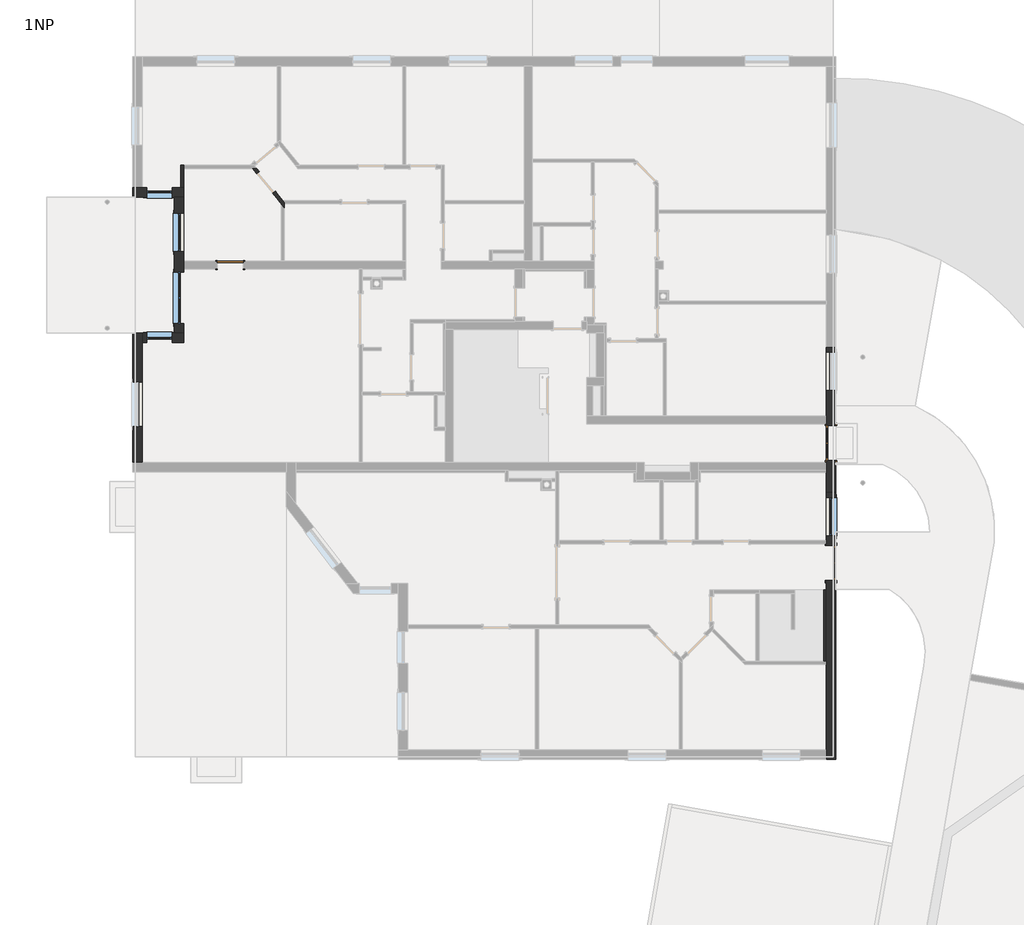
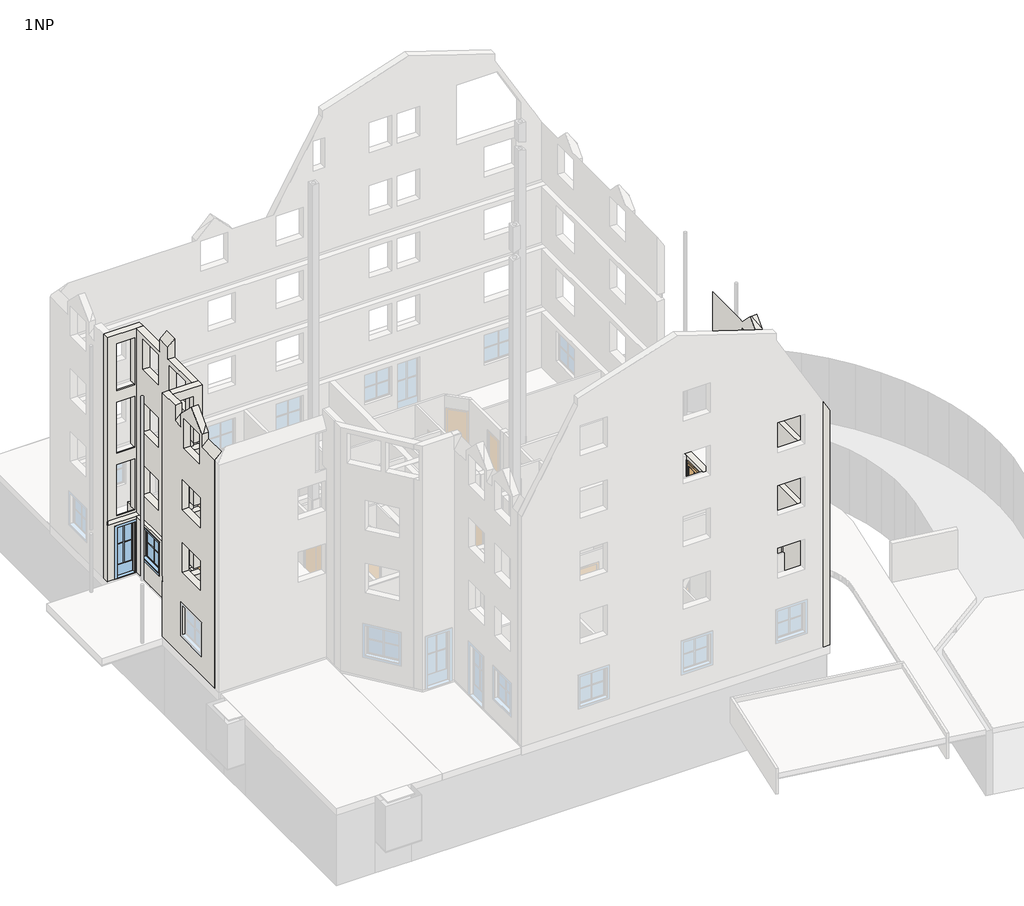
# One storey, part 3 of 7: 9 walls, 5 windows, 3 doors.
"""IFC4 building model written with IfcOpenShell, lengths in millimetres."""

from ifc_helpers import new_model, si_unit, origin, origin_with_axes, place, context, project, spatial, polyline, outline, extrude, faceted_brep, transform, mapped, element, save
from components import door_1100_x_2400mm_ddb7a374, door_1100_x_2400mm_4252e609, sd_800x2000_0203fe2f, standard_window_with_mullions_80486b60, window_1_87741a49, window_2_4fa60929

model = new_model("IFC4")

# Units and contexts
model_context = context("Model", 3, world=origin())
ifc_project = project(units=[si_unit("LENGTHUNIT", "METRE", prefix="MILLI")], contexts=[model_context])

# Site, building, storey
site = spatial("IfcSite", under=ifc_project)
building = spatial("IfcBuilding", under=site)
storey = spatial("IfcBuildingStorey", under=building, Name="1NP", Elevation=0.0)

# Doors
placement = place(None, origin())
door_1100_x_2400mm_shape = door_1100_x_2400mm_ddb7a374(model_context)
element("IfcDoor", 1, ObjectType="JednokridleOteviraveSkloVypln : 1100 x 2400mm", at=placement, inside=storey, context=model_context, shape_type="MappedRepresentation", body=[
    mapped(door_1100_x_2400mm_shape, transform((9212.8087835, -1232.3709459, 0.0), x_axis=(0.0, -1.0, 0.0), y_axis=(1.0, 0.0, 0.0), z_axis=(0.0, 0.0, 1.0))),
])
door_1100_x_2400mm_2_shape = door_1100_x_2400mm_4252e609(model_context)
element("IfcDoor", 2, ObjectType="JednokridleOteviraveSkloVypln : 1100 x 2400mm", at=placement, inside=storey, context=model_context, shape_type="MappedRepresentation", body=[
    mapped(door_1100_x_2400mm_2_shape, transform((9212.7987835, -4984.0530346, 0.0), x_axis=(0.0, -1.0, 0.0), y_axis=(1.0, 0.0, 0.0), z_axis=(0.0, 0.0, 1.0))),
])
sd_800x2000_shape = sd_800x2000_0203fe2f(model_context)
element("IfcDoor", 3, ObjectType="JednokridlePlne : SD 800x2000", at=placement, inside=storey, context=model_context, shape_type="MappedRepresentation", body=[
    mapped(sd_800x2000_shape, transform((-9588.4360939, 4342.6290541, 0.0), x_axis=(-1.0, 0.0, 0.0), y_axis=(0.0, -1.0, 0.0), z_axis=(0.0, 0.0, 1.0))),
])

# Walls
element("IfcWall", 4, ObjectType="Exterior - 250 + 50mm", at=placement, inside=storey, context=model_context, shape_type="Brep", body=[
    faceted_brep([(-11037.1962165, 4647.6290541, 11480.0), (-11037.1962165, 4647.6290541, 11800.0), (-11037.1962165, 4647.6290541, 12350.0), (-11037.1962165, 4447.6290541, 12350.0), (-11037.1962165, 4237.6290541, 12350.0), (-11037.1962165, 4037.6290541, 12350.0), (-11037.1962165, 4037.6290541, 11800.0), (-11037.1962165, 4037.6290541, 11480.0), (-11037.1962165, 2217.6290541, 11480.0), (-11037.1962165, 2217.6290541, 8850.0), (-11037.1962165, 4152.6290541, 8850.0), (-11037.1962165, 4217.6290541, 8850.0), (-11037.1962165, 4467.6290541, 8850.0), (-11037.1962165, 6467.6290541, 8850.0), (-11037.1962165, 6467.6290541, 11480.0), (-11037.1962165, 4767.6290548, 9850.0), (-11037.1962165, 4767.6290548, 11250.0), (-11037.1962165, 5967.6290548, 11250.0), (-11037.1962165, 5967.6290548, 9850.0), (-11037.1962165, 2717.6290548, 9850.0), (-11037.1962165, 2717.6290548, 11250.0), (-11037.1962165, 3917.6290548, 11250.0), (-11037.1962165, 3917.6290548, 9850.0), (-11037.1962165, 2517.6290559, 2950.0), (-11037.1962165, 2517.6290559, 5350.0), (-11037.1962165, 4117.6290559, 5350.0), (-11037.1962165, 4117.6290559, 2950.0), (-11037.1962165, 4152.6290541, 2950.0), (-11037.1962165, 4217.6290541, 2950.0), (-11037.1962165, 4467.6290541, 2950.0), (-11037.1962165, 6367.6290541, 2950.0), (-11037.1962165, 6467.6290541, 2950.0), (-11037.1962165, 6467.6290541, 5580.0), (-11037.1962165, 6367.6290541, 5580.0), (-11037.1962165, 4467.6290541, 5580.0), (-11037.1962165, 4217.6290541, 5580.0), (-11037.1962165, 4152.6290541, 5580.0), (-11037.1962165, 2217.6290541, 5580.0), (-11037.1962165, 2217.6290541, 2950.0), (-11037.1962165, 4767.6290548, 3950.0), (-11037.1962165, 4767.6290548, 5350.0), (-11037.1962165, 5967.6290548, 5350.0), (-11037.1962165, 5967.6290548, 3950.0), (-11037.1962165, 2517.6290559, 5900.0), (-11037.1962165, 2517.6290559, 8300.0), (-11037.1962165, 4117.6290559, 8300.0), (-11037.1962165, 4117.6290559, 5900.0), (-11037.1962165, 4152.6290541, 5900.0), (-11037.1962165, 4217.6290541, 5900.0), (-11037.1962165, 4467.6290541, 5900.0), (-11037.1962165, 6467.6290541, 5900.0), (-11037.1962165, 6467.6290541, 8530.0), (-11037.1962165, 4467.6290541, 8530.0), (-11037.1962165, 4217.6290541, 8530.0), (-11037.1962165, 4152.6290541, 8530.0), (-11037.1962165, 2217.6290541, 8530.0), (-11037.1962165, 2217.6290541, 5900.0), (-11037.1962165, 4767.6290548, 6900.0), (-11037.1962165, 4767.6290548, 8300.0), (-11037.1962165, 5967.6290548, 8300.0), (-11037.1962165, 5967.6290548, 6900.0), (-11337.1962165, 4647.6290541, 12050.0), (-11337.1962165, 4647.6290541, 11480.0), (-11337.1962165, 6467.6290541, 11480.0), (-11337.1962165, 6467.6290541, 2850.0), (-11337.1962165, 4392.6290541, 2850.0), (-11337.1962165, 4292.6290541, 2850.0), (-11337.1962165, 2217.6290541, 2850.0), (-11337.1962165, 2217.6290541, 11480.0), (-11337.1962165, 4037.6290541, 11480.0), (-11337.1962165, 4037.6290541, 12050.0), (-11337.1962165, 2517.6290559, 5350.0), (-11337.1962165, 2517.6290559, 2950.0), (-11337.1962165, 4117.6290559, 2950.0), (-11337.1962165, 4117.6290559, 5350.0), (-11337.1962165, 4767.6290548, 5350.0), (-11337.1962165, 4767.6290548, 3950.0), (-11337.1962165, 5967.6290548, 3950.0), (-11337.1962165, 5967.6290548, 5350.0), (-11337.1962165, 2517.6290559, 8300.0), (-11337.1962165, 2517.6290559, 5900.0), (-11337.1962165, 4117.6290559, 5900.0), (-11337.1962165, 4117.6290559, 8300.0), (-11337.1962165, 4767.6290548, 8300.0), (-11337.1962165, 4767.6290548, 6900.0), (-11337.1962165, 5967.6290548, 6900.0), (-11337.1962165, 5967.6290548, 8300.0), (-11337.1962165, 4767.6290548, 11250.0), (-11337.1962165, 4767.6290548, 9850.0), (-11337.1962165, 5967.6290548, 9850.0), (-11337.1962165, 5967.6290548, 11250.0), (-11337.1962165, 2717.6290548, 11250.0), (-11337.1962165, 2717.6290548, 9850.0), (-11337.1962165, 3917.6290548, 9850.0), (-11337.1962165, 3917.6290548, 11250.0), (-11287.1962165, 2217.6290541, 2850.0), (-11287.1962165, 2217.6290541, 2950.0), (-11287.1962165, 2217.6290541, 5580.0), (-11287.1962165, 2217.6290541, 5900.0), (-11287.1962165, 2217.6290541, 8530.0), (-11287.1962165, 2217.6290541, 8850.0), (-11287.1962165, 6467.6290541, 8850.0), (-11287.1962165, 6467.6290541, 8530.0), (-11287.1962165, 6467.6290541, 5900.0), (-11287.1962165, 6467.6290541, 5580.0), (-11287.1962165, 6467.6290541, 2950.0), (-11287.1962165, 6467.6290541, 2850.0), (-11287.1962165, 2517.6290559, 2950.0), (-11287.1962165, 4117.6290559, 2950.0), (-11287.1962165, 2517.6290559, 5900.0), (-11287.1962165, 4117.6290559, 5900.0)], [[[0, 1, 2, 3, 4, 5, 6, 7, 8, 9, 10, 11, 12, 13, 14], [15, 16, 17, 18], [19, 20, 21, 22]], [[23, 24, 25, 26, 27, 28, 29, 30, 31, 32, 33, 34, 35, 36, 37, 38], [39, 40, 41, 42]], [[43, 44, 45, 46, 47, 48, 49, 50, 51, 52, 53, 54, 55, 56], [57, 58, 59, 60]], [[61, 62, 63, 64, 65, 66, 67, 68, 69, 70], [71, 72, 73, 74], [75, 76, 77, 78], [79, 80, 81, 82], [83, 84, 85, 86], [87, 88, 89, 90], [91, 92, 93, 94]], [[8, 68, 67, 95, 96, 38, 37, 97, 98, 56, 55, 99, 100, 9]], [[63, 14, 13, 101, 102, 51, 50, 103, 104, 32, 31, 105, 106, 64]], [[2, 1, 0, 62, 61]], [[70, 69, 7, 6, 5]], [[5, 4, 3, 2, 61, 70]], [[0, 14, 63, 62]], [[8, 7, 69, 68]], [[24, 23, 107, 72, 71]], [[25, 24, 71, 74]], [[26, 25, 74, 73, 108]], [[73, 72, 107, 108]], [[40, 39, 76, 75]], [[41, 40, 75, 78]], [[42, 41, 78, 77]], [[39, 42, 77, 76]], [[44, 43, 109, 80, 79]], [[45, 44, 79, 82]], [[46, 45, 82, 81, 110]], [[81, 80, 109, 110]], [[58, 57, 84, 83]], [[59, 58, 83, 86]], [[60, 59, 86, 85]], [[57, 60, 85, 84]], [[16, 15, 88, 87]], [[17, 16, 87, 90]], [[18, 17, 90, 89]], [[15, 18, 89, 88]], [[20, 19, 92, 91]], [[21, 20, 91, 94]], [[22, 21, 94, 93]], [[19, 22, 93, 92]], [[96, 107, 23, 38]], [[108, 105, 31, 30, 29, 28, 27, 26]], [[107, 96, 95, 106, 105, 108]], [[67, 66, 65, 64, 106, 95]], [[104, 97, 37, 36, 35, 34, 33, 32]], [[98, 109, 43, 56]], [[110, 103, 50, 49, 48, 47, 46]], [[97, 104, 103, 110, 109, 98]], [[102, 99, 55, 54, 53, 52, 51]], [[100, 101, 13, 12, 11, 10, 9]], [[99, 102, 101, 100]]]),
    faceted_brep([(-11037.1962165, 2517.6290559, 0.0), (-11037.1962165, 2517.6290559, 2400.0), (-11037.1962165, 4117.6290559, 2400.0), (-11037.1962165, 4117.6290559, 0.0), (-11037.1962165, 4217.6290541, 0.0), (-11037.1962165, 4467.6290541, 0.0), (-11037.1962165, 6467.6290541, 0.0), (-11037.1962165, 6467.6290541, 2630.0), (-11037.1962165, 4467.6290541, 2630.0), (-11037.1962165, 4217.6290541, 2630.0), (-11037.1962165, 2217.6290541, 2630.0), (-11037.1962165, 2217.6290541, 0.0), (-11037.1962165, 4767.6290548, 1000.0), (-11037.1962165, 4767.6290548, 2400.0), (-11037.1962165, 5967.6290548, 2400.0), (-11037.1962165, 5967.6290548, 1000.0), (-11337.1962165, 2517.6290559, 2400.0), (-11337.1962165, 2517.6290559, 0.0), (-11337.1962165, 2217.6290541, 0.0), (-11337.1962165, 2217.6290541, 2630.0), (-11337.1962165, 6467.6290541, 2630.0), (-11337.1962165, 6467.6290541, 0.0), (-11337.1962165, 4117.6290559, 0.0), (-11337.1962165, 4117.6290559, 2400.0), (-11337.1962165, 4767.6290548, 2400.0), (-11337.1962165, 4767.6290548, 1000.0), (-11337.1962165, 5967.6290548, 1000.0), (-11337.1962165, 5967.6290548, 2400.0)], [[[0, 1, 2, 3, 4, 5, 6, 7, 8, 9, 10, 11], [12, 13, 14, 15]], [[16, 17, 18, 19, 20, 21, 22, 23], [24, 25, 26, 27]], [[11, 18, 17, 0]], [[21, 6, 5, 4, 3, 22]], [[18, 11, 10, 19]], [[6, 21, 20, 7]], [[1, 0, 17, 16]], [[2, 1, 16, 23]], [[3, 2, 23, 22]], [[13, 12, 25, 24]], [[14, 13, 24, 27]], [[15, 14, 27, 26]], [[12, 15, 26, 25]], [[10, 9, 8, 7, 20, 19]]]),
])
element("IfcWall", 5, ObjectType="Exterior - 250+50mm", at=placement, inside=storey, context=model_context, shape_type="Brep", body=[
    faceted_brep([(-12637.1962165, 6767.6290541, 0.0), (-12637.1962165, 6767.6290541, 11480.0), (-12337.1962165, 6767.6290541, 11480.0), (-11037.1962165, 6767.6290541, 11480.0), (-11037.1962165, 6767.6290541, 8850.0), (-11407.370388, 6767.6290541, 8850.0), (-11407.370388, 6767.6290541, 11050.0), (-12207.370388, 6767.6290541, 11050.0), (-12207.370388, 6767.6290541, 8850.0), (-12337.1962165, 6767.6290541, 8850.0), (-12587.1962165, 6767.6290541, 8850.0), (-12587.1962165, 6767.6290541, 8530.0), (-12337.1962165, 6767.6290541, 8530.0), (-11137.1962165, 6767.6290541, 8530.0), (-11037.1962165, 6767.6290541, 8530.0), (-11037.1962165, 6767.6290541, 5900.0), (-11137.1962165, 6767.6290541, 5900.0), (-11407.370388, 6767.6290541, 5900.0), (-11407.370388, 6767.6290541, 8300.0), (-12207.370388, 6767.6290541, 8300.0), (-12207.370388, 6767.6290541, 5900.0), (-12337.1962165, 6767.6290541, 5900.0), (-12587.1962165, 6767.6290541, 5900.0), (-12587.1962165, 6767.6290541, 5580.0), (-12337.1962165, 6767.6290541, 5580.0), (-11037.1962165, 6767.6290541, 5580.0), (-11037.1962165, 6767.6290541, 2950.0), (-11407.370388, 6767.6290541, 2950.0), (-11407.370388, 6767.6290541, 5350.0), (-12207.370388, 6767.6290541, 5350.0), (-12207.370388, 6767.6290541, 2950.0), (-12337.1962165, 6767.6290541, 2950.0), (-12587.1962165, 6767.6290541, 2950.0), (-12587.1962165, 6767.6290541, 2630.0), (-12337.1962165, 6767.6290541, 2630.0), (-11137.1962165, 6767.6290541, 2630.0), (-11037.1962165, 6767.6290541, 2630.0), (-11037.1962165, 6767.6290541, 0.0), (-11137.1962165, 6767.6290541, 0.0), (-11407.370388, 6767.6290541, 0.0), (-11407.370388, 6767.6290541, 2400.0), (-12207.370388, 6767.6290541, 2400.0), (-12207.370388, 6767.6290541, 0.0), (-12337.1962165, 6767.6290541, 0.0), (-11037.1962165, 6467.6290541, 11480.0), (-11337.1962165, 6467.6290541, 11480.0), (-12637.1962165, 6467.6290541, 11480.0), (-12637.1962165, 6467.6290541, 2850.0), (-11337.1962165, 6467.6290541, 2850.0), (-11287.1962165, 6467.6290541, 2850.0), (-11287.1962165, 6467.6290541, 2950.0), (-11037.1962165, 6467.6290541, 2950.0), (-11037.1962165, 6467.6290541, 5580.0), (-11287.1962165, 6467.6290541, 5580.0), (-11287.1962165, 6467.6290541, 5900.0), (-11037.1962165, 6467.6290541, 5900.0), (-11037.1962165, 6467.6290541, 8530.0), (-11287.1962165, 6467.6290541, 8530.0), (-11287.1962165, 6467.6290541, 8850.0), (-11037.1962165, 6467.6290541, 8850.0), (-12207.370388, 6467.6290541, 2950.0), (-12207.370388, 6467.6290541, 5350.0), (-11407.370388, 6467.6290541, 5350.0), (-11407.370388, 6467.6290541, 2950.0), (-12207.370388, 6467.6290541, 5900.0), (-12207.370388, 6467.6290541, 8300.0), (-11407.370388, 6467.6290541, 8300.0), (-11407.370388, 6467.6290541, 5900.0), (-12207.370388, 6467.6290541, 8850.0), (-12207.370388, 6467.6290541, 11050.0), (-11407.370388, 6467.6290541, 11050.0), (-11407.370388, 6467.6290541, 8850.0), (-11407.370388, 6467.6290541, 2400.0), (-11407.370388, 6467.6290541, 0.0), (-11337.1962165, 6467.6290541, 0.0), (-11037.1962165, 6467.6290541, 0.0), (-11037.1962165, 6467.6290541, 2630.0), (-11337.1962165, 6467.6290541, 2630.0), (-12637.1962165, 6467.6290541, 2630.0), (-12637.1962165, 6467.6290541, 0.0), (-12207.370388, 6467.6290541, 0.0), (-12207.370388, 6467.6290541, 2400.0), (-12637.1962165, 6517.6290541, 2630.0), (-12637.1962165, 6517.6290541, 2850.0), (-12207.370388, 6517.6290541, 2950.0), (-11407.370388, 6517.6290541, 2950.0), (-12207.370388, 6517.6290541, 5900.0), (-11407.370388, 6517.6290541, 5900.0), (-12207.370388, 6517.6290541, 8850.0), (-11407.370388, 6517.6290541, 8850.0), (-12587.1962165, 6517.6290541, 2630.0), (-12587.1962165, 6517.6290541, 2950.0), (-11287.1962165, 6517.6290541, 2950.0), (-11287.1962165, 6517.6290541, 2850.0), (-12587.1962165, 6517.6290541, 2850.0), (-12587.1962165, 6517.6290541, 5580.0), (-11287.1962165, 6517.6290541, 5580.0), (-12587.1962165, 6517.6290541, 5900.0), (-11287.1962165, 6517.6290541, 5900.0), (-12587.1962165, 6517.6290541, 8530.0), (-11287.1962165, 6517.6290541, 8530.0), (-12587.1962165, 6517.6290541, 8850.0), (-11287.1962165, 6517.6290541, 8850.0)], [[[0, 1, 2, 3, 4, 5, 6, 7, 8, 9, 10, 11, 12, 13, 14, 15, 16, 17, 18, 19, 20, 21, 22, 23, 24, 25, 26, 27, 28, 29, 30, 31, 32, 33, 34, 35, 36, 37, 38, 39, 40, 41, 42, 43]], [[44, 45, 46, 47, 48, 49, 50, 51, 52, 53, 54, 55, 56, 57, 58, 59], [60, 61, 62, 63], [64, 65, 66, 67], [68, 69, 70, 71]], [[72, 73, 74, 75, 76, 77, 78, 79, 80, 81]], [[79, 0, 43, 42, 80]], [[37, 75, 74, 73, 39, 38]], [[1, 0, 79, 78, 82, 83, 47, 46]], [[75, 37, 36, 76]], [[3, 44, 59, 4]], [[51, 26, 25, 52]], [[55, 15, 14, 56]], [[3, 2, 1, 46, 45, 44]], [[40, 39, 73, 72]], [[41, 40, 72, 81]], [[42, 41, 81, 80]], [[61, 60, 84, 30, 29]], [[62, 61, 29, 28]], [[63, 62, 28, 27, 85]], [[60, 63, 85, 84]], [[65, 64, 86, 20, 19]], [[66, 65, 19, 18]], [[67, 66, 18, 17, 87]], [[64, 67, 87, 86]], [[69, 68, 88, 8, 7]], [[70, 69, 7, 6]], [[71, 70, 6, 5, 89]], [[68, 71, 89, 88]], [[33, 90, 82, 78, 77, 76, 36, 35, 34]], [[84, 91, 32, 31, 30]], [[92, 85, 27, 26, 51, 50]], [[92, 50, 49, 93]], [[91, 84, 85, 92, 93, 94]], [[90, 33, 32, 91, 94]], [[83, 94, 93, 49, 48, 47]], [[82, 90, 94, 83]], [[95, 96, 53, 52, 25, 24, 23]], [[86, 97, 22, 21, 20]], [[98, 87, 17, 16, 15, 55, 54]], [[96, 98, 54, 53]], [[96, 95, 97, 86, 87, 98]], [[97, 95, 23, 22]], [[99, 100, 57, 56, 14, 13, 12, 11]], [[88, 101, 10, 9, 8]], [[102, 89, 5, 4, 59, 58]], [[100, 102, 58, 57]], [[100, 99, 101, 88, 89, 102]], [[101, 99, 11, 10]]]),
])
element("IfcWall", 6, ObjectType="Exterior - 250+50mm", at=placement, inside=storey, context=model_context, shape_type="Brep", body=[
    faceted_brep([(-12337.1962165, -1832.3709459, 0.0), (-12337.1962165, 1917.6290541, 0.0), (-12337.1962165, 2217.6290541, 0.0), (-12337.1962165, 2217.6290541, 2630.0), (-12337.1962165, 1917.6290541, 2630.0), (-12337.1962165, -1832.3709459, 2630.0), (-12337.1962165, -720.1346317, 1000.0), (-12337.1962165, -720.1346317, 2400.0), (-12337.1962165, 679.8653683, 2400.0), (-12337.1962165, 679.8653683, 1000.0), (-12337.1962165, -820.1346317, 11350.0), (-12337.1962165, -820.1346317, 11050.0), (-12337.1962165, -1832.3709459, 11050.0), (-12337.1962165, -1832.3709459, 8850.0), (-12337.1962165, 1917.6290541, 8850.0), (-12337.1962165, 2167.6290541, 8850.0), (-12337.1962165, 2167.6290541, 8530.0), (-12337.1962165, 1917.6290541, 8530.0), (-12337.1962165, -1832.3709459, 8530.0), (-12337.1962165, -1832.3709459, 5900.0), (-12337.1962165, 1917.6290541, 5900.0), (-12337.1962165, 2167.6290541, 5900.0), (-12337.1962165, 2167.6290541, 5580.0), (-12337.1962165, 1917.6290541, 5580.0), (-12337.1962165, -1832.3709459, 5580.0), (-12337.1962165, -1832.3709459, 2950.0), (-12337.1962165, 1917.6290541, 2950.0), (-12337.1962165, 2167.6290541, 2950.0), (-12337.1962165, 2167.6290541, 2850.0), (-12337.1962165, 2217.6290541, 2850.0), (-12337.1962165, 2217.6290541, 11480.0), (-12337.1962165, 1917.6290541, 11480.0), (-12337.1962165, 1237.6290541, 11480.0), (-12337.1962165, 1237.6290541, 11050.0), (-12337.1962165, 779.8653683, 11050.0), (-12337.1962165, 779.8653683, 11350.0), (-12337.1962165, 570.7484858, 11559.1168825), (-12337.1962165, -20.1346317, 12150.0), (-12337.1962165, -611.0177493, 11559.1168825), (-12337.1962165, -720.1346317, 3950.0), (-12337.1962165, -720.1346317, 5350.0), (-12337.1962165, 679.8653683, 5350.0), (-12337.1962165, 679.8653683, 3950.0), (-12337.1962165, -720.1346317, 6900.0), (-12337.1962165, -720.1346317, 8300.0), (-12337.1962165, 679.8653683, 8300.0), (-12337.1962165, 679.8653683, 6900.0), (-12337.1962165, -620.1346317, 9850.0), (-12337.1962165, -620.1346317, 11250.0), (-12337.1962165, 579.8653683, 11250.0), (-12337.1962165, 579.8653683, 9850.0), (-12637.1962165, 2217.6290541, 0.0), (-12637.1962165, -1832.3709459, 0.0), (-12637.1962165, -1832.3709459, 10750.0), (-12637.1962165, -820.1346317, 10750.0), (-12637.1962165, -820.1346317, 11350.0), (-12637.1962165, -20.1346317, 12150.0), (-12637.1962165, 779.8653683, 11350.0), (-12637.1962165, 779.8653683, 10750.0), (-12637.1962165, 1237.6290541, 10750.0), (-12637.1962165, 1237.6290541, 11480.0), (-12637.1962165, 2217.6290541, 11480.0), (-12637.1962165, 2217.6290541, 2850.0), (-12637.1962165, 2167.6290541, 2850.0), (-12637.1962165, 2167.6290541, 2630.0), (-12637.1962165, 2217.6290541, 2630.0), (-12637.1962165, -720.1346317, 2400.0), (-12637.1962165, -720.1346317, 1000.0), (-12637.1962165, 679.8653683, 1000.0), (-12637.1962165, 679.8653683, 2400.0), (-12637.1962165, -720.1346317, 5350.0), (-12637.1962165, -720.1346317, 3950.0), (-12637.1962165, 679.8653683, 3950.0), (-12637.1962165, 679.8653683, 5350.0), (-12637.1962165, -720.1346317, 8300.0), (-12637.1962165, -720.1346317, 6900.0), (-12637.1962165, 679.8653683, 6900.0), (-12637.1962165, 679.8653683, 8300.0), (-12637.1962165, -620.1346317, 11250.0), (-12637.1962165, -620.1346317, 9850.0), (-12637.1962165, 579.8653683, 9850.0), (-12637.1962165, 579.8653683, 11250.0), (-12587.1962165, -1832.3709459, 2630.0), (-12587.1962165, -1832.3709459, 2950.0), (-12587.1962165, -1832.3709459, 5580.0), (-12587.1962165, -1832.3709459, 5900.0), (-12587.1962165, -1832.3709459, 8530.0), (-12587.1962165, -1832.3709459, 8850.0), (-12546.313099, -820.1346317, 11350.0), (-12546.313099, 779.8653683, 11350.0), (-12587.1962165, 2167.6290541, 2630.0), (-12587.1962165, 2167.6290541, 2950.0), (-12587.1962165, 2167.6290541, 2850.0), (-12587.1962165, 2167.6290541, 5580.0), (-12587.1962165, 2167.6290541, 5900.0), (-12587.1962165, 2167.6290541, 8530.0), (-12587.1962165, 2167.6290541, 8850.0)], [[[0, 1, 2, 3, 4, 5], [6, 7, 8, 9]], [[10, 11, 12, 13, 14, 15, 16, 17, 18, 19, 20, 21, 22, 23, 24, 25, 26, 27, 28, 29, 30, 31, 32, 33, 34, 35, 36, 37, 38], [39, 40, 41, 42], [43, 44, 45, 46], [47, 48, 49, 50]], [[51, 52, 53, 54, 55, 56, 57, 58, 59, 60, 61, 62, 63, 64, 65], [66, 67, 68, 69], [70, 71, 72, 73], [74, 75, 76, 77], [78, 79, 80, 81]], [[2, 1, 0, 52, 51]], [[2, 51, 65, 3]], [[61, 30, 29, 62]], [[53, 52, 0, 5, 82, 83, 25, 24, 84, 85, 19, 18, 86, 87, 13, 12]], [[55, 54, 11, 10, 88]], [[35, 34, 58, 57, 89]], [[33, 32, 60, 59]], [[36, 35, 89]], [[34, 33, 59, 58]], [[10, 38, 88]], [[53, 12, 11, 54]], [[55, 88, 38, 37, 56]], [[89, 57, 56, 37, 36]], [[32, 31, 30, 61, 60]], [[7, 6, 67, 66]], [[8, 7, 66, 69]], [[9, 8, 69, 68]], [[6, 9, 68, 67]], [[40, 39, 71, 70]], [[41, 40, 70, 73]], [[42, 41, 73, 72]], [[39, 42, 72, 71]], [[44, 43, 75, 74]], [[45, 44, 74, 77]], [[46, 45, 77, 76]], [[43, 46, 76, 75]], [[48, 47, 79, 78]], [[49, 48, 78, 81]], [[50, 49, 81, 80]], [[47, 50, 80, 79]], [[90, 82, 5, 4, 3, 65, 64]], [[83, 91, 27, 26, 25]], [[82, 90, 92, 91, 83]], [[27, 91, 92, 28]], [[92, 63, 62, 29, 28]], [[90, 64, 63, 92]], [[22, 93, 84, 24, 23]], [[85, 94, 21, 20, 19]], [[93, 94, 85, 84]], [[94, 93, 22, 21]], [[16, 95, 86, 18, 17]], [[87, 96, 15, 14, 13]], [[95, 96, 87, 86]], [[96, 95, 16, 15]]]),
])
element("IfcWall", 7, ObjectType="Exterior - 250+50mm", at=placement, inside=storey, context=model_context, shape_type="Brep", body=[
    faceted_brep([(-11037.1962165, 1917.6290541, 11480.0), (-12337.1962165, 1917.6290541, 11480.0), (-12337.1962165, 1917.6290541, 8850.0), (-12207.3703663, 1917.6290541, 8850.0), (-12207.3703663, 1917.6290541, 11050.0), (-11407.3703663, 1917.6290541, 11050.0), (-11407.3703663, 1917.6290541, 8850.0), (-11037.1962165, 1917.6290541, 8850.0), (-12207.3703663, 1917.6290541, 2950.0), (-12207.3703663, 1917.6290541, 5350.0), (-11407.3703663, 1917.6290541, 5350.0), (-11407.3703663, 1917.6290541, 2950.0), (-11037.1962165, 1917.6290541, 2950.0), (-11037.1962165, 1917.6290541, 5580.0), (-12337.1962165, 1917.6290541, 5580.0), (-12337.1962165, 1917.6290541, 2950.0), (-12207.3703663, 1917.6290541, 5900.0), (-12207.3703663, 1917.6290541, 8300.0), (-11407.3703663, 1917.6290541, 8300.0), (-11407.3703663, 1917.6290541, 5900.0), (-11037.1962165, 1917.6290541, 5900.0), (-11037.1962165, 1917.6290541, 8530.0), (-12337.1962165, 1917.6290541, 8530.0), (-12337.1962165, 1917.6290541, 5900.0), (-12337.1962165, 2217.6290541, 11480.0), (-11337.1962165, 2217.6290541, 11480.0), (-11037.1962165, 2217.6290541, 11480.0), (-11037.1962165, 2217.6290541, 8850.0), (-11287.1962165, 2217.6290541, 8850.0), (-11287.1962165, 2217.6290541, 8530.0), (-11037.1962165, 2217.6290541, 8530.0), (-11037.1962165, 2217.6290541, 5900.0), (-11287.1962165, 2217.6290541, 5900.0), (-11287.1962165, 2217.6290541, 5580.0), (-11037.1962165, 2217.6290541, 5580.0), (-11037.1962165, 2217.6290541, 2950.0), (-11287.1962165, 2217.6290541, 2950.0), (-11287.1962165, 2217.6290541, 2850.0), (-11337.1962165, 2217.6290541, 2850.0), (-12337.1962165, 2217.6290541, 2850.0), (-12207.3703663, 2217.6290541, 5350.0), (-12207.3703663, 2217.6290541, 2950.0), (-11407.3703663, 2217.6290541, 2950.0), (-11407.3703663, 2217.6290541, 5350.0), (-12207.3703663, 2217.6290541, 8300.0), (-12207.3703663, 2217.6290541, 5900.0), (-11407.3703663, 2217.6290541, 5900.0), (-11407.3703663, 2217.6290541, 8300.0), (-12207.3703663, 2217.6290541, 11050.0), (-12207.3703663, 2217.6290541, 8850.0), (-11407.3703663, 2217.6290541, 8850.0), (-11407.3703663, 2217.6290541, 11050.0), (-12337.1962165, 2167.6290541, 2850.0), (-12337.1962165, 2167.6290541, 2950.0), (-12337.1962165, 2167.6290541, 5580.0), (-12337.1962165, 2167.6290541, 5900.0), (-12337.1962165, 2167.6290541, 8530.0), (-12337.1962165, 2167.6290541, 8850.0), (-12207.3703663, 2167.6290541, 2950.0), (-11407.3703663, 2167.6290541, 2950.0), (-12207.3703663, 2167.6290541, 5900.0), (-11407.3703663, 2167.6290541, 5900.0), (-12207.3703663, 2167.6290541, 8850.0), (-11407.3703663, 2167.6290541, 8850.0), (-11287.1962165, 2167.6290541, 2950.0), (-11287.1962165, 2167.6290541, 2850.0), (-11287.1962165, 2167.6290541, 5580.0), (-11287.1962165, 2167.6290541, 5900.0), (-11287.1962165, 2167.6290541, 8530.0), (-11287.1962165, 2167.6290541, 8850.0)], [[[0, 1, 2, 3, 4, 5, 6, 7]], [[8, 9, 10, 11, 12, 13, 14, 15]], [[16, 17, 18, 19, 20, 21, 22, 23]], [[24, 25, 26, 27, 28, 29, 30, 31, 32, 33, 34, 35, 36, 37, 38, 39], [40, 41, 42, 43], [44, 45, 46, 47], [48, 49, 50, 51]], [[26, 0, 7, 27]], [[12, 35, 34, 13]], [[20, 31, 30, 21]], [[1, 24, 39, 52, 53, 15, 14, 54, 55, 23, 22, 56, 57, 2]], [[1, 0, 26, 25, 24]], [[9, 8, 58, 41, 40]], [[10, 9, 40, 43]], [[11, 10, 43, 42, 59]], [[42, 41, 58, 59]], [[17, 16, 60, 45, 44]], [[18, 17, 44, 47]], [[19, 18, 47, 46, 61]], [[46, 45, 60, 61]], [[48, 4, 3, 62, 49]], [[4, 48, 51, 5]], [[5, 51, 50, 63, 6]], [[50, 49, 62, 63]], [[59, 64, 36, 35, 12, 11]], [[53, 58, 8, 15]], [[64, 59, 58, 53, 52, 65]], [[36, 64, 65, 37]], [[39, 38, 37, 65, 52]], [[33, 66, 54, 14, 13, 34]], [[61, 67, 32, 31, 20, 19]], [[55, 60, 16, 23]], [[66, 67, 61, 60, 55, 54]], [[67, 66, 33, 32]], [[29, 68, 56, 22, 21, 30]], [[63, 69, 28, 27, 7, 6]], [[57, 62, 3, 2]], [[68, 69, 63, 62, 57, 56]], [[69, 68, 29, 28]]]),
    faceted_brep([(-12207.3703663, 1917.6290541, 0.0), (-12207.3703663, 1917.6290541, 2400.0), (-11407.3703663, 1917.6290541, 2400.0), (-11407.3703663, 1917.6290541, 0.0), (-11037.1962165, 1917.6290541, 0.0), (-11037.1962165, 1917.6290541, 2630.0), (-12337.1962165, 1917.6290541, 2630.0), (-12337.1962165, 1917.6290541, 0.0), (-12207.3703663, 2217.6290541, 2400.0), (-12207.3703663, 2217.6290541, 0.0), (-12337.1962165, 2217.6290541, 0.0), (-12337.1962165, 2217.6290541, 2630.0), (-11337.1962165, 2217.6290541, 2630.0), (-11037.1962165, 2217.6290541, 2630.0), (-11037.1962165, 2217.6290541, 0.0), (-11337.1962165, 2217.6290541, 0.0), (-11407.3703663, 2217.6290541, 0.0), (-11407.3703663, 2217.6290541, 2400.0)], [[[0, 1, 2, 3, 4, 5, 6, 7]], [[8, 9, 10, 11, 12, 13, 14, 15, 16, 17]], [[14, 4, 3, 16, 15]], [[7, 10, 9, 0]], [[4, 14, 13, 5]], [[10, 7, 6, 11]], [[1, 0, 9, 8]], [[2, 1, 8, 17]], [[3, 2, 17, 16]], [[6, 5, 13, 12, 11]]]),
])
element("IfcWall", 8, ObjectType="Exterior - 250+50mm", at=placement, inside=storey, context=model_context, shape_type="Brep", body=[
    faceted_brep([(9062.8037835, -1782.2469294, 2400.0), (9062.8037835, -1782.2469294, 0.0), (9062.8037835, -1832.3709459, 0.0), (9062.8037835, -2082.3709459, 0.0), (9062.8037835, -2147.3709459, 0.0), (9062.8037835, -2782.3709459, 0.0), (9062.8037835, -2782.3709459, 2630.0), (9062.8037835, -2682.3709459, 2630.0), (9062.8037835, -2147.3709459, 2630.0), (9062.8037835, -2082.3709459, 2630.0), (9062.8037835, -1832.3709459, 2630.0), (9062.8037835, -632.3709459, 2630.0), (9062.8037835, -382.3709459, 2630.0), (9062.8037835, 1667.6290541, 2630.0), (9062.8037835, 1767.6290541, 2630.0), (9062.8037835, 1767.6290541, 0.0), (9062.8037835, -382.3709459, 0.0), (9062.8037835, -632.3709459, 0.0), (9062.8037835, -682.2469294, 0.0), (9062.8037835, -682.2469294, 2400.0), (9062.8037835, 1617.6290519, 1000.0), (9062.8037835, 1617.6290519, 2400.0), (9062.8037835, 417.6290519, 2400.0), (9062.8037835, 417.6290519, 1000.0), (9362.8037835, -2782.3709459, 0.0), (9362.8037835, -1782.2469294, 0.0), (9362.8037835, -1782.2469294, 2400.0), (9362.8037835, -682.2469294, 2400.0), (9362.8037835, -682.2469294, 0.0), (9362.8037835, 1767.6290541, 0.0), (9362.8037835, 1767.6290541, 2630.0), (9362.8037835, 1667.6290541, 2630.0), (9362.8037835, -2682.3709459, 2630.0), (9362.8037835, -2782.3709459, 2630.0), (9362.8037835, 1617.6290519, 1000.0), (9362.8037835, 417.6290519, 1000.0), (9362.8037835, 417.6290519, 2400.0), (9362.8037835, 1617.6290519, 2400.0), (9312.8037835, -2782.3709459, 2630.0), (9312.8037835, 1767.6290541, 2630.0)], [[[0, 1, 2, 3, 4, 5, 6, 7, 8, 9, 10, 11, 12, 13, 14, 15, 16, 17, 18, 19], [20, 21, 22, 23]], [[24, 25, 26, 27, 28, 29, 30, 31, 32, 33], [34, 35, 36, 37]], [[5, 4, 3, 2, 1, 25, 24]], [[18, 17, 16, 15, 29, 28]], [[6, 5, 24, 33, 38]], [[15, 14, 39, 30, 29]], [[7, 6, 38, 33, 32]], [[14, 13, 31, 30, 39]], [[13, 12, 11, 10, 9, 8, 7, 32, 31]], [[21, 20, 34, 37]], [[22, 21, 37, 36]], [[23, 22, 36, 35]], [[20, 23, 35, 34]], [[26, 25, 1, 0]], [[27, 26, 0, 19]], [[28, 27, 19, 18]]]),
])
element("IfcWall", 9, ObjectType="Exterior - 250+50mm", at=placement, inside=storey, context=model_context, shape_type="Brep", body=[
    faceted_brep([(9062.8037835, -11132.3709459, 0.0), (9062.8037835, -11132.3709459, 11562.4355653), (9062.8037835, -10832.3709459, 11562.4355653), (9062.8037835, -6324.0530367, 11562.4355653), (9062.8037835, -6111.6174714, 11562.4355653), (9062.8037835, -5524.0530367, 12150.0), (9062.8037835, -5391.6174714, 12017.5644347), (9062.8037835, -4936.488602, 11562.4355653), (9062.8037835, -4724.0530367, 11562.4355653), (9062.8037835, -2632.3709459, 11562.4355653), (9062.8037835, -2632.3709459, 11480.0), (9062.8037835, -2632.3709459, 8850.0), (9062.8037835, -2932.3709459, 8850.0), (9062.8037835, -4602.3709459, 8850.0), (9062.8037835, -4702.3709459, 8850.0), (9062.8037835, -6932.3709459, 8850.0), (9062.8037835, -7032.3709459, 8850.0), (9062.8037835, -10832.3709459, 8850.0), (9062.8037835, -11082.3709459, 8850.0), (9062.8037835, -11082.3709459, 8530.0), (9062.8037835, -10832.3709459, 8530.0), (9062.8037835, -7232.3709459, 8530.0), (9062.8037835, -6982.3709459, 8530.0), (9062.8037835, -2932.3709459, 8530.0), (9062.8037835, -2632.3709459, 8530.0), (9062.8037835, -2632.3709459, 5900.0), (9062.8037835, -2932.3709459, 5900.0), (9062.8037835, -6982.3709459, 5900.0), (9062.8037835, -7232.3709459, 5900.0), (9062.8037835, -10832.3709459, 5900.0), (9062.8037835, -11082.3709459, 5900.0), (9062.8037835, -11082.3709459, 5580.0), (9062.8037835, -10832.3709459, 5580.0), (9062.8037835, -7232.3709459, 5580.0), (9062.8037835, -6982.3709459, 5580.0), (9062.8037835, -2932.3709459, 5580.0), (9062.8037835, -2932.3709459, 2950.0), (9062.8037835, -2782.3709459, 2950.0), (9062.8037835, -2782.3709459, 2630.0), (9062.8037835, -2782.3709459, 0.0), (9062.8037835, -4282.3709459, 0.0), (9062.8037835, -4382.3709459, 0.0), (9062.8037835, -4433.9290181, 0.0), (9062.8037835, -4433.9290181, 2400.0), (9062.8037835, -5533.9290181, 2400.0), (9062.8037835, -5533.9290181, 0.0), (9062.8037835, -8062.3709459, 0.0), (9062.8037835, -8162.3709459, 0.0), (9062.8037835, -10832.3709459, 0.0), (9062.8037835, -2938.2419433, 1000.0), (9062.8037835, -2938.2419433, 2400.0), (9062.8037835, -4138.2419433, 2400.0), (9062.8037835, -4138.2419433, 1000.0), (9062.8037835, -4924.0530367, 3950.0), (9062.8037835, -4924.0530367, 5350.0), (9062.8037835, -6124.0530367, 5350.0), (9062.8037835, -6124.0530367, 3950.0), (9062.8037835, -4924.0530367, 6900.0), (9062.8037835, -4924.0530367, 8300.0), (9062.8037835, -6124.0530367, 8300.0), (9062.8037835, -6124.0530367, 6900.0), (9062.8037835, -4924.0530367, 9850.0), (9062.8037835, -4924.0530367, 11250.0), (9062.8037835, -6124.0530367, 11250.0), (9062.8037835, -6124.0530367, 9850.0), (9362.8037835, -11132.3709459, 11042.820323), (9362.8037835, -11132.3709459, 0.0), (9362.8037835, -5533.9290181, 0.0), (9362.8037835, -5533.9290181, 2400.0), (9362.8037835, -4433.9290181, 2400.0), (9362.8037835, -4433.9290181, 0.0), (9362.8037835, -2782.3709459, 0.0), (9362.8037835, -2782.3709459, 2630.0), (9362.8037835, -2782.3709459, 2950.0), (9362.8037835, -2932.3709459, 2950.0), (9362.8037835, -2932.3709459, 5580.0), (9362.8037835, -2932.3709459, 5900.0), (9362.8037835, -2782.3709459, 5900.0), (9362.8037835, -2632.3709459, 5900.0), (9362.8037835, -2632.3709459, 8530.0), (9362.8037835, -2682.3709459, 8530.0), (9362.8037835, -2782.3709459, 8530.0), (9362.8037835, -2782.3709459, 8850.0), (9362.8037835, -2632.3709459, 8850.0), (9362.8037835, -2632.3709459, 11042.820323), (9362.8037835, -4724.0530367, 11042.820323), (9362.8037835, -4724.0530367, 11350.0), (9362.8037835, -5136.8733598, 11762.820323), (9362.8037835, -5524.0530367, 12150.0), (9362.8037835, -5911.2327137, 11762.820323), (9362.8037835, -6324.0530367, 11350.0), (9362.8037835, -6324.0530367, 11042.820323), (9362.8037835, -2938.2419433, 2400.0), (9362.8037835, -2938.2419433, 1000.0), (9362.8037835, -4138.2419433, 1000.0), (9362.8037835, -4138.2419433, 2400.0), (9362.8037835, -4924.0530367, 5350.0), (9362.8037835, -4924.0530367, 3950.0), (9362.8037835, -6124.0530367, 3950.0), (9362.8037835, -6124.0530367, 5350.0), (9362.8037835, -4924.0530367, 8300.0), (9362.8037835, -4924.0530367, 6900.0), (9362.8037835, -6124.0530367, 6900.0), (9362.8037835, -6124.0530367, 8300.0), (9362.8037835, -4924.0530367, 11250.0), (9362.8037835, -4924.0530367, 9850.0), (9362.8037835, -6124.0530367, 9850.0), (9362.8037835, -6124.0530367, 11250.0), (9312.8037835, -2932.3709459, 5900.0), (9312.8037835, -11082.3709459, 5900.0), (9312.8037835, -2932.3709459, 5580.0), (9185.4535143, -4724.0530367, 11350.0), (9185.4535143, -6324.0530367, 11350.0), (9139.2654927, -5524.0530367, 12150.0), (9312.8037835, -11082.3709459, 5580.0), (9312.8037835, -2782.3709459, 8530.0), (9312.8037835, -11082.3709459, 8530.0), (9312.8037835, -2782.3709459, 8850.0), (9312.8037835, -11082.3709459, 8850.0)], [[[0, 1, 2, 3, 4, 5, 6, 7, 8, 9, 10, 11, 12, 13, 14, 15, 16, 17, 18, 19, 20, 21, 22, 23, 24, 25, 26, 27, 28, 29, 30, 31, 32, 33, 34, 35, 36, 37, 38, 39, 40, 41, 42, 43, 44, 45, 46, 47, 48], [49, 50, 51, 52], [53, 54, 55, 56], [57, 58, 59, 60], [61, 62, 63, 64]], [[65, 66, 67, 68, 69, 70, 71, 72, 73, 74, 75, 76, 77, 78, 79, 80, 81, 82, 83, 84, 85, 86, 87, 88, 89, 90, 91], [92, 93, 94, 95], [96, 97, 98, 99], [100, 101, 102, 103], [104, 105, 106, 107]], [[39, 71, 70, 42, 41, 40]], [[66, 0, 48, 47, 46, 45, 67]], [[1, 0, 66, 65]], [[71, 39, 38, 37, 73, 72]], [[74, 73, 37, 36]], [[25, 78, 77, 76, 108, 109, 30, 29, 28, 27, 26]], [[76, 75, 74, 36, 35, 110, 108]], [[78, 25, 24, 79]], [[9, 84, 83, 11, 10]], [[86, 85, 111]], [[91, 90, 112]], [[89, 88, 113]], [[88, 87, 113]], [[3, 2, 1, 65, 91, 112, 4]], [[90, 89, 113, 5, 4, 112]], [[87, 86, 111, 7, 6, 5, 113]], [[84, 9, 8, 7, 111, 85]], [[50, 49, 93, 92]], [[51, 50, 92, 95]], [[52, 51, 95, 94]], [[49, 52, 94, 93]], [[68, 67, 45, 44]], [[69, 68, 44, 43]], [[70, 69, 43, 42]], [[54, 53, 97, 96]], [[55, 54, 96, 99]], [[56, 55, 99, 98]], [[53, 56, 98, 97]], [[58, 57, 101, 100]], [[59, 58, 100, 103]], [[60, 59, 103, 102]], [[57, 60, 102, 101]], [[61, 105, 104, 62]], [[62, 104, 107, 63]], [[63, 107, 106, 64]], [[105, 61, 64, 106]], [[31, 114, 110, 35, 34, 33, 32]], [[114, 109, 108, 110]], [[109, 114, 31, 30]], [[115, 81, 80, 79, 24, 23, 22, 21, 20, 19, 116]], [[117, 118, 18, 17, 16, 15, 14, 13, 12, 11, 83, 82]], [[81, 115, 117, 82]], [[115, 116, 118, 117]], [[118, 116, 19, 18]]]),
])
element("IfcWall", 10, ObjectType="Interior - 100mm", at=placement, inside=storey, context=model_context, shape_type="Brep", body=[
    faceted_brep([(-11037.1962165, 6767.6290541, 0.0), (-11037.1962165, 7367.6290541, 0.0), (-11037.1962165, 7467.6290541, 0.0), (-11037.1962165, 7467.6290541, 2630.0), (-11037.1962165, 7367.6290541, 2630.0), (-11037.1962165, 6767.6290541, 2630.0), (-11137.1962165, 6767.6290541, 0.0), (-11137.1962165, 6767.6290541, 2630.0), (-11137.1962165, 7467.6290541, 2630.0), (-11137.1962165, 7467.6290541, 0.0)], [[[0, 1, 2, 3, 4, 5]], [[6, 7, 8, 9]], [[2, 1, 0, 6, 9]], [[3, 2, 9, 8]], [[0, 5, 7, 6]], [[5, 4, 3, 8, 7]]]),
])
element("IfcWall", 11, ObjectType="Interior - 100mm", at=placement, inside=storey, context=model_context, shape_type="Brep", body=[
    faceted_brep([(-8255.4225805, 6593.2770496, 2000.0), (-8255.4225805, 6593.2770496, 0.0), (-7989.734861, 6267.6290541, 0.0), (-7889.734861, 6145.0611025, 0.0), (-7889.734861, 6145.0611025, 2630.0), (-7989.734861, 6267.6290541, 2630.0), (-8887.1962165, 7367.6290541, 2630.0), (-8887.1962165, 7367.6290541, 0.0), (-8761.1554056, 7213.1434139, 0.0), (-8761.1554056, 7213.1434139, 2000.0), (-7889.734861, 6303.2473938, 0.0), (-7942.2621811, 6367.6290541, 0.0), (-8177.939285, 6656.4936527, 0.0), (-8177.939285, 6656.4936527, 2000.0), (-8683.6721101, 7276.3600171, 2000.0), (-8683.6721101, 7276.3600171, 0.0), (-8758.1361407, 7367.6290541, 0.0), (-8758.1361407, 7367.6290541, 2630.0), (-7942.2621811, 6367.6290541, 2630.0), (-7889.734861, 6303.2473938, 2630.0)], [[[0, 1, 2, 3, 4, 5, 6, 7, 8, 9]], [[10, 11, 12, 13, 14, 15, 16, 17, 18, 19]], [[3, 2, 1, 12, 11, 10]], [[8, 7, 16, 15]], [[4, 3, 10, 19]], [[7, 6, 17, 16]], [[6, 5, 4, 19, 18, 17]], [[13, 12, 1, 0]], [[14, 13, 0, 9]], [[15, 14, 9, 8]]]),
])
element("IfcWall", 12, ObjectType="Interior - 80mm", at=placement, inside=storey, context=model_context, shape_type="SweptSolid", body=[
    extrude(outline(polyline([(8982.8088399, -8062.3709459), (8982.8088399, -5832.3709459), (9062.8088399, -5832.3709459), (9062.8088399, -8062.3709459), (8982.8088399, -8062.3709459)])), origin_with_axes(), (0.0, 0.0, 1.0), 2950.0),
])

# Windows
standard_window_with_mullions_shape = standard_window_with_mullions_80486b60(model_context)
element("IfcWindow", 13, ObjectType="Standard Window with mullions : 1200/1400", at=placement, inside=storey, context=model_context, shape_type="MappedRepresentation", body=[
    mapped(standard_window_with_mullions_shape, transform((-11187.1962165, 5367.6290548, 0.0), x_axis=(0.0, 1.0, 0.0), y_axis=(-1.0, 0.0, 0.0), z_axis=(0.0, 0.0, 1.0))),
])
element("IfcWindow", 14, ObjectType="Standard Window with mullions : 1200/1400", at=placement, inside=storey, context=model_context, shape_type="MappedRepresentation", body=[
    mapped(standard_window_with_mullions_shape, transform((9212.8037835, -3538.2419433, 0.0), x_axis=(0.0, -1.0, 0.0), y_axis=(1.0, 0.0, 0.0), z_axis=(0.0, 0.0, 1.0))),
])
window_1_shape = window_1_87741a49(model_context)
element("IfcWindow", 15, ObjectType="Window 1 : 1600/2400", at=placement, inside=storey, context=model_context, shape_type="MappedRepresentation", body=[
    mapped(window_1_shape, transform((-11187.1962165, 3317.6290559, 0.0), x_axis=(0.0, 1.0, 0.0), y_axis=(-1.0, 0.0, 0.0), z_axis=(0.0, 0.0, 1.0))),
])
window_2_shape = window_2_4fa60929(model_context)
element("IfcWindow", 16, ObjectType="Window 2 : 800/2400", at=placement, inside=storey, context=model_context, shape_type="MappedRepresentation", body=[
    mapped(window_2_shape, transform((-11807.3703663, 2067.6290541, 0.0), x_axis=(1.0, 0.0, 0.0), y_axis=(0.0, 1.0, 0.0), z_axis=(0.0, 0.0, 1.0))),
])
element("IfcWindow", 17, ObjectType="Window 2 : 800/2400", at=placement, inside=storey, context=model_context, shape_type="MappedRepresentation", body=[
    mapped(window_2_shape, transform((-11807.370388, 6617.6290541, 0.0), x_axis=(-1.0, 0.0, 0.0), y_axis=(0.0, -1.0, 0.0), z_axis=(0.0, 0.0, 1.0))),
])

save(model, "model.ifc")
